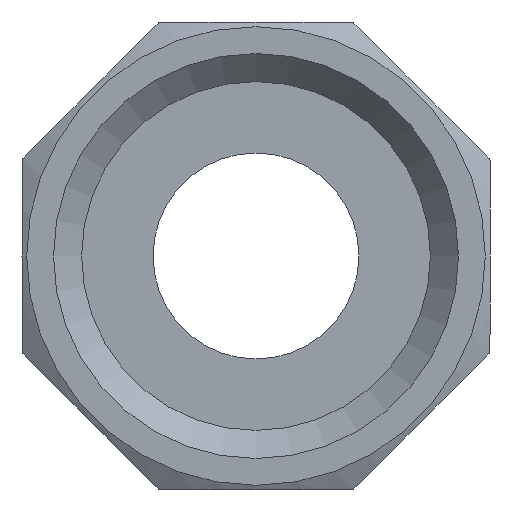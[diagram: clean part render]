
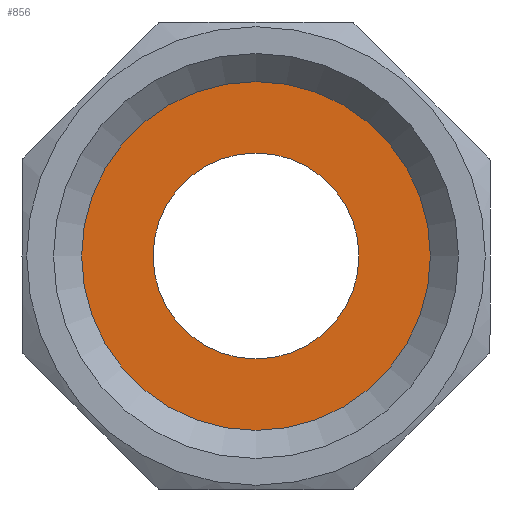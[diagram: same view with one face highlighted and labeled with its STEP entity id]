
A CAD part, left-side view. The second image highlights one B-rep face of the part: STEP entity #856.
In plain terms, the highlighted planar face has unit normal (-1, 0, 0).
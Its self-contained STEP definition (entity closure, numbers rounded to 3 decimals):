
#822=CARTESIAN_POINT('',(15.5,-9.477,0.0));
#823=VERTEX_POINT('',#822);
#824=CARTESIAN_POINT('',(15.5,0.0,0.0));
#825=DIRECTION('',(1.0,0.0,0.0));
#826=DIRECTION('',(0.0,-1.0,0.0));
#827=AXIS2_PLACEMENT_3D('',#824,#825,#826);
#828=CIRCLE('',#827,9.477);
#829=EDGE_CURVE('',#823,#823,#828,.T.);
#837=CARTESIAN_POINT('',(15.5,-7.408,0.0));
#838=DIRECTION('',(1.0,0.0,0.0));
#839=DIRECTION('',(0.0,0.0,-1.0));
#840=AXIS2_PLACEMENT_3D('',#837,#838,#839);
#841=PLANE('',#840);
#842=ORIENTED_EDGE('',*,*,#829,.F.);
#843=EDGE_LOOP('',(#842));
#844=FACE_OUTER_BOUND('',#843,.T.);
#845=CARTESIAN_POINT('',(15.5,-5.5,0.0));
#846=VERTEX_POINT('',#845);
#847=CARTESIAN_POINT('',(15.5,0.0,0.0));
#848=DIRECTION('',(1.0,0.0,0.0));
#849=DIRECTION('',(0.0,-1.0,0.0));
#850=AXIS2_PLACEMENT_3D('',#847,#848,#849);
#851=CIRCLE('',#850,5.5);
#852=EDGE_CURVE('',#846,#846,#851,.T.);
#853=ORIENTED_EDGE('',*,*,#852,.T.);
#854=EDGE_LOOP('',(#853));
#855=FACE_BOUND('',#854,.T.);
#856=ADVANCED_FACE('',(#844,#855),#841,.F.);
